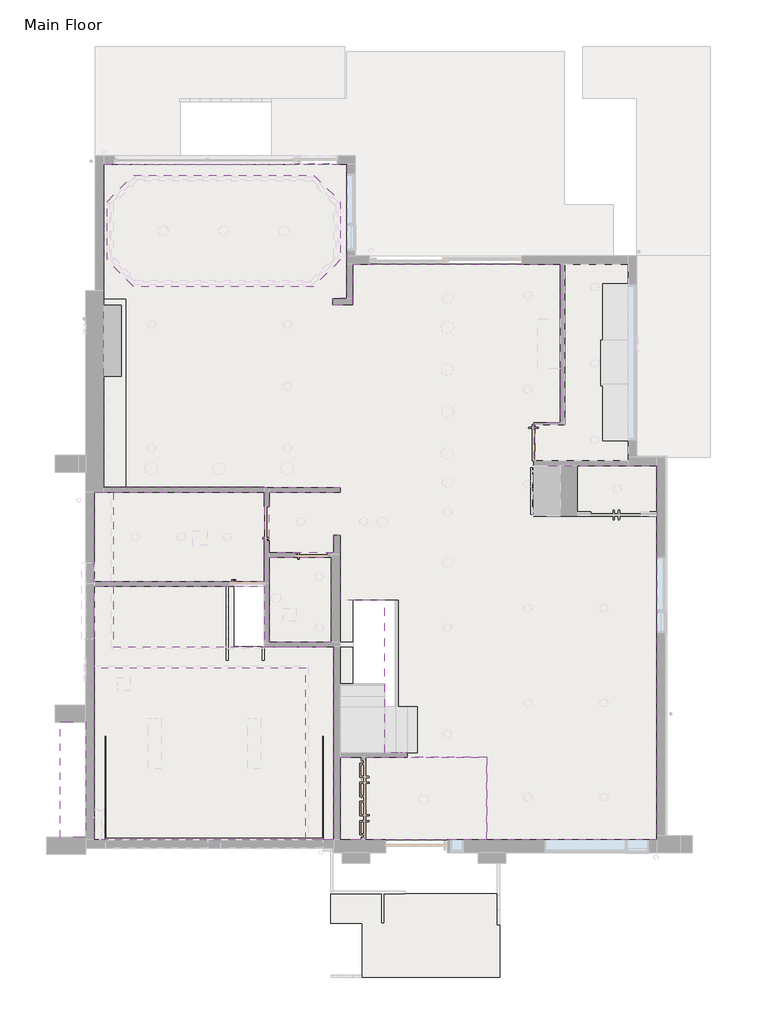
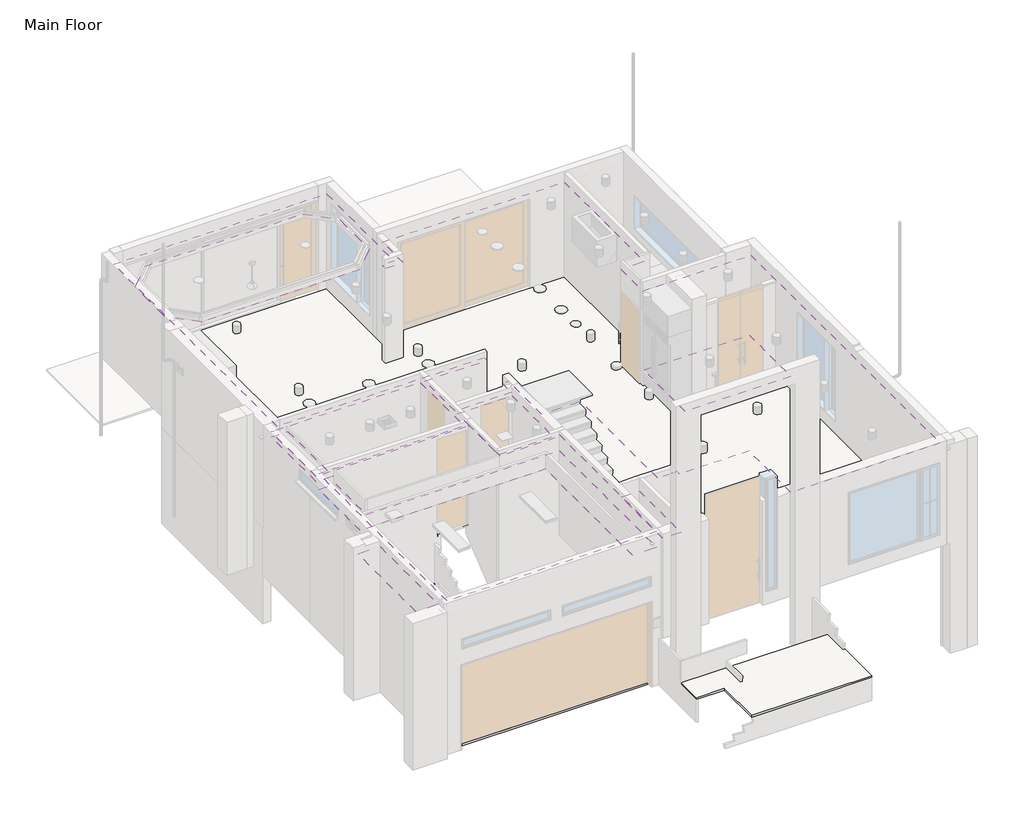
# One storey, part 3 of 4: 10 coverings, 4 slabs.
"""IFC4 building model written with IfcOpenShell, lengths in millimetres."""

from ifc_helpers import new_model, si_unit, point, frame, frame_2d, origin, place, context, project, spatial, polyline, circle_curve, trimmed, segment, composite_curve, outline, extrude, faceted_brep, element, save
from ifc_brep_helpers import plane_surface, revolved_surface, advanced_brep

model = new_model("IFC4")

# Units and contexts
model_context = context("Model", 3, world=origin())
ifc_project = project(units=[si_unit("LENGTHUNIT", "METRE", prefix="MILLI")], contexts=[model_context])

# Site, building, storey
site = spatial("IfcSite", under=ifc_project)
building = spatial("IfcBuilding", under=site)
storey = spatial("IfcBuildingStorey", under=building, Name="Main Floor", Elevation=0.0)

# Coverings
placement = place(None, origin())
element("IfcCovering", 1, ObjectType="1/2\" Ceiling", at=placement, inside=storey, context=model_context, shape_type="SweptSolid", body=[
    extrude(outline(polyline([(8017.6549773, 5688.3409405), (8017.6549773, 7824.1282405), (8144.7517773, 7824.1282405), (12086.5517773, 7824.1282405), (12086.5517773, 5688.3409405), (8017.6549773, 5688.3409405)]), holes=[composite_curve([segment(trimmed(circle_curve(frame_2d((8995.6517773, 6757.3282405)), 87.3), [point((9082.9517773, 6757.3282405))], [point((8908.3517773, 6757.3282405))], True, "CARTESIAN"), True, "CONTINUOUS"), segment(trimmed(circle_curve(frame_2d((8995.6517773, 6757.3282405)), 87.3), [point((8908.3517773, 6757.3282405))], [point((9082.9517773, 6757.3282405))], True, "CARTESIAN"), True, "CONTINUOUS")], self_intersect=False), composite_curve([segment(trimmed(circle_curve(frame_2d((10097.3767773, 6757.3282405)), 87.3), [point((10184.6767773, 6757.3282405))], [point((10010.0767773, 6757.3282405))], True, "CARTESIAN"), True, "CONTINUOUS"), segment(trimmed(circle_curve(frame_2d((10097.3767773, 6757.3282405)), 87.3), [point((10010.0767773, 6757.3282405))], [point((10184.6767773, 6757.3282405))], True, "CARTESIAN"), True, "CONTINUOUS")], self_intersect=False), composite_curve([segment(trimmed(circle_curve(frame_2d((11199.1017773, 6757.3282405)), 87.3), [point((11286.4017773, 6757.3282405))], [point((11111.8017773, 6757.3282405))], True, "CARTESIAN"), True, "CONTINUOUS"), segment(trimmed(circle_curve(frame_2d((11199.1017773, 6757.3282405)), 87.3), [point((11111.8017773, 6757.3282405))], [point((11286.4017773, 6757.3282405))], True, "CARTESIAN"), True, "CONTINUOUS")], self_intersect=False), polyline([(10703.7049773, 6888.4909405), (10386.2049773, 6888.4909405), (10386.2049773, 6570.9909405), (10703.7049773, 6570.9909405), (10703.7049773, 6888.4909405)])]), frame((0.0, 0.0, 2743.2), z_axis=(0.0, 0.0, 1.0), x_axis=(1.0, 0.0, 0.0)), (0.0, 0.0, 1.0), 12.7),
])
element("IfcCovering", 2, ObjectType="1/2\" Ceiling", at=placement, inside=storey, context=model_context, shape_type="SweptSolid", body=[
    extrude(outline(polyline([(13688.2049773, 6266.1909405), (13688.2049773, 4240.5409405), (12200.8517773, 4240.5409405), (12200.8517773, 5633.3782405), (12200.8517773, 6266.1909405), (13688.2049773, 6266.1909405)]), holes=[composite_curve([segment(trimmed(circle_curve(frame_2d((13396.3580273, 4589.7909405)), 87.3), [point((13483.6580273, 4589.7909405))], [point((13309.0580273, 4589.7909405))], True, "CARTESIAN"), True, "CONTINUOUS"), segment(trimmed(circle_curve(frame_2d((13396.3580273, 4589.7909405)), 87.3), [point((13309.0580273, 4589.7909405))], [point((13483.6580273, 4589.7909405))], True, "CARTESIAN"), True, "CONTINUOUS")], self_intersect=False), composite_curve([segment(trimmed(circle_curve(frame_2d((13396.3580273, 5808.9909405)), 87.3), [point((13483.6580273, 5808.9909405))], [point((13309.0580273, 5808.9909405))], True, "CARTESIAN"), True, "CONTINUOUS"), segment(trimmed(circle_curve(frame_2d((13396.3580273, 5808.9909405)), 87.3), [point((13309.0580273, 5808.9909405))], [point((13483.6580273, 5808.9909405))], True, "CARTESIAN"), True, "CONTINUOUS")], self_intersect=False)]), frame((0.0, 0.0, 2743.2), z_axis=(0.0, 0.0, 1.0), x_axis=(1.0, 0.0, 0.0)), (0.0, 0.0, 1.0), 12.7),
])
element("IfcCovering", 3, ObjectType="1/2\" Ceiling", at=placement, inside=storey, context=model_context, shape_type="SweptSolid", body=[
    extrude(outline(polyline([(14399.5017773, -490.2090595), (13904.0081773, -490.2090595), (13904.0081773, 1484.6409405), (14399.5017773, 1484.6409405), (14399.5017773, -490.2090595)])), frame((0.0, 0.0, 2641.6), z_axis=(0.0, 0.0, 1.0), x_axis=(1.0, 0.0, 0.0)), (0.0, 0.0, 1.0), 12.7),
])
element("IfcCovering", 4, ObjectType="1/2\" Ceiling", at=placement, inside=storey, context=model_context, shape_type="AdvancedBrep", body=[
    advanced_brep(
    [(15498.9030773, 1598.9409405, 2755.9), (15498.9030773, 1484.6409405, 2755.9), (17396.7017773, 1484.6409405, 2755.9), (17396.7017773, -490.2090595, 2755.9), (21473.3049773, -490.2090595, 2755.9), (21473.3049773, 8456.9409405, 2755.9), (18520.6517773, 8456.9409405, 2755.9), (18520.6517773, 9485.6409405, 2755.9), (19155.6623773, 9485.6409405, 2755.9), (19155.6623773, 13276.5909405, 2755.9), (14202.5549773, 13276.5909405, 2755.9), (14202.5549773, 12305.0409405, 2755.9), (13720.1485773, 12305.0409405, 2755.9), (13720.1485773, 12457.4409405, 2755.9), (14050.1549773, 12457.4409405, 2755.9), (14050.1549773, 15664.1909405, 2755.9), (8246.2549773, 15664.1909405, 2755.9), (8246.2549773, 7936.2409405, 2755.9), (13904.2985773, 7936.2409405, 2755.9), (13904.2985773, 7821.9409405, 2755.9), (12200.8517773, 7821.9409405, 2755.9), (12200.8517773, 6380.4909405, 2755.9), (13739.0049773, 6380.4909405, 2755.9), (13739.0049773, 6799.5909405, 2755.9), (13904.1049773, 6799.5909405, 2755.9), (13904.1049773, 5237.4909405, 2755.9), (14964.6517773, 5237.4909405, 2755.9), (14964.6517773, 1598.9409405, 2755.9), (15282.1517773, 1598.9409405, 2755.9), (15396.4517773, 1598.9409405, 2755.9), (20439.9517773, 7904.4909405, 2755.9), (20614.5517773, 7904.4909405, 2755.9), (18293.5549773, 532.1409405, 2755.9), (18468.1549773, 532.1409405, 2755.9), (20116.0049773, 532.1409405, 2755.9), (20290.6049773, 532.1409405, 2755.9), (20116.0049773, 2791.9807905, 2755.9), (20290.6049773, 2791.9807905, 2755.9), (20116.0049773, 5051.8206405, 2755.9), (20290.6049773, 5051.8206405, 2755.9), (18293.5549773, 5051.8206405, 2755.9), (18468.1549773, 5051.8206405, 2755.9), (18293.5549773, 2791.9807905, 2755.9), (18468.1549773, 2791.9807905, 2755.9), (16375.9517773, 2043.4409405, 2755.9), (16550.5517773, 2043.4409405, 2755.9), (16375.9517773, 4596.1409405, 2755.9), (16550.5517773, 4596.1409405, 2755.9), (16375.9517773, 7352.0409405, 2755.9), (16550.5517773, 7352.0409405, 2755.9), (18293.5549773, 10282.7003405, 2755.9), (18468.1549773, 10282.7003405, 2755.9), (18293.5549773, 8022.8604905, 2755.9), (18468.1549773, 8022.8604905, 2755.9), (18293.5549773, 12542.5401905, 2755.9), (18468.1549773, 12542.5401905, 2755.9), (9295.7017773, 8882.3909405, 2755.9), (9470.3017773, 8882.3909405, 2755.9), (9302.0517773, 11828.7909405, 2755.9), (9476.6517773, 11828.7909405, 2755.9), (12553.2517773, 11828.7909405, 2755.9), (12727.8517773, 11828.7909405, 2755.9), (12546.9017773, 8882.3909405, 2755.9), (12721.5017773, 8882.3909405, 2755.9), (12546.9017773, 10355.5909405, 2755.9), (12721.5017773, 10355.5909405, 2755.9), (12864.4017773, 7123.4409405, 2755.9), (13039.0017773, 7123.4409405, 2755.9), (14369.3517773, 7123.4409405, 2755.9), (14543.9517773, 7123.4409405, 2755.9), (15498.9030773, 1484.6409405, 2743.2), (15498.9030773, 1598.9409405, 2743.2), (14964.6517773, 1598.9409405, 2743.2), (14964.6517773, 5237.4909405, 2743.2), (13904.1049773, 5237.4909405, 2743.2), (13904.1049773, 6799.5909405, 2743.2), (13739.0049773, 6799.5909405, 2743.2), (13739.0049773, 6380.4909405, 2743.2), (12200.8517773, 6380.4909405, 2743.2), (12200.8517773, 7821.9409405, 2743.2), (13904.2985773, 7821.9409405, 2743.2), (13904.2985773, 7936.2409405, 2743.2), (8246.2549773, 7936.2409405, 2743.2), (8246.2549773, 15664.1909405, 2743.2), (14050.1549773, 15664.1909405, 2743.2), (14050.1549773, 12457.4409405, 2743.2), (13720.1485773, 12457.4409405, 2743.2), (13720.1485773, 12305.0409405, 2743.2), (14202.5549773, 12305.0409405, 2743.2), (14202.5549773, 13276.5909405, 2743.2), (19155.6623773, 13276.5909405, 2743.2), (19155.6623773, 9485.6409405, 2743.2), (18520.6517773, 9485.6409405, 2743.2), (18520.6517773, 8456.9409405, 2743.2), (21473.3049773, 8456.9409405, 2743.2), (21473.3049773, -490.2090595, 2743.2), (17396.7017773, -490.2090595, 2743.2), (17396.7017773, 1484.6409405, 2743.2), (20614.5517773, 7904.4909405, 2743.2), (20439.9517773, 7904.4909405, 2743.2), (18468.1549773, 532.1409405, 2743.2), (18293.5549773, 532.1409405, 2743.2), (20290.6049773, 532.1409405, 2743.2), (20116.0049773, 532.1409405, 2743.2), (20290.6049773, 2791.9807905, 2743.2), (20116.0049773, 2791.9807905, 2743.2), (20290.6049773, 5051.8206405, 2743.2), (20116.0049773, 5051.8206405, 2743.2), (18468.1549773, 5051.8206405, 2743.2), (18293.5549773, 5051.8206405, 2743.2), (18468.1549773, 2791.9807905, 2743.2), (18293.5549773, 2791.9807905, 2743.2), (16550.5517773, 2043.4409405, 2743.2), (16375.9517773, 2043.4409405, 2743.2), (16550.5517773, 4596.1409405, 2743.2), (16375.9517773, 4596.1409405, 2743.2), (16550.5517773, 7352.0409405, 2743.2), (16375.9517773, 7352.0409405, 2743.2), (18468.1549773, 10282.7003405, 2743.2), (18293.5549773, 10282.7003405, 2743.2), (18468.1549773, 8022.8604905, 2743.2), (18293.5549773, 8022.8604905, 2743.2), (18468.1549773, 12542.5401905, 2743.2), (18293.5549773, 12542.5401905, 2743.2), (9470.3017773, 8882.3909405, 2743.2), (9295.7017773, 8882.3909405, 2743.2), (9476.6517773, 11828.7909405, 2743.2), (9302.0517773, 11828.7909405, 2743.2), (12727.8517773, 11828.7909405, 2743.2), (12553.2517773, 11828.7909405, 2743.2), (12721.5017773, 8882.3909405, 2743.2), (12546.9017773, 8882.3909405, 2743.2), (12721.5017773, 10355.5909405, 2743.2), (12546.9017773, 10355.5909405, 2743.2), (13039.0017773, 7123.4409405, 2743.2), (12864.4017773, 7123.4409405, 2743.2), (14543.9517773, 7123.4409405, 2743.2), (14369.3517773, 7123.4409405, 2743.2)],
    [
        (0, 1),
        (1, 2),
        (2, 3),
        (3, 4),
        (4, 5),
        (5, 6),
        (6, 7),
        (7, 8),
        (8, 9),
        (9, 10),
        (10, 11),
        (11, 12),
        (12, 13),
        (13, 14),
        (14, 15),
        (15, 16),
        (16, 17),
        (17, 18),
        (18, 19),
        (19, 20),
        (20, 21),
        (21, 22),
        (22, 23),
        (23, 24),
        (24, 25),
        (25, 26),
        (26, 27),
        (27, 28),
        (28, 29),
        (29, 0),
        (30, 31, circle_curve(frame((20527.2517773, 7904.4909405, 2755.9), z_axis=(0.0, 0.0, -1.0), x_axis=(1.0, 0.0, 0.0)), 87.3)),
        (31, 30, circle_curve(frame((20527.2517773, 7904.4909405, 2755.9), z_axis=(0.0, 0.0, -1.0), x_axis=(1.0, 0.0, 0.0)), 87.3)),
        (32, 33, circle_curve(frame((18380.8549773, 532.1409405, 2755.9), z_axis=(0.0, 0.0, -1.0), x_axis=(1.0, 0.0, 0.0)), 87.3)),
        (33, 32, circle_curve(frame((18380.8549773, 532.1409405, 2755.9), z_axis=(0.0, 0.0, -1.0), x_axis=(1.0, 0.0, 0.0)), 87.3)),
        (34, 35, circle_curve(frame((20203.3049773, 532.1409405, 2755.9), z_axis=(0.0, 0.0, -1.0), x_axis=(1.0, 0.0, 0.0)), 87.3)),
        (35, 34, circle_curve(frame((20203.3049773, 532.1409405, 2755.9), z_axis=(0.0, 0.0, -1.0), x_axis=(1.0, 0.0, 0.0)), 87.3)),
        (36, 37, circle_curve(frame((20203.3049773, 2791.9807905, 2755.9), z_axis=(0.0, 0.0, -1.0), x_axis=(1.0, 0.0, 0.0)), 87.3)),
        (37, 36, circle_curve(frame((20203.3049773, 2791.9807905, 2755.9), z_axis=(0.0, 0.0, -1.0), x_axis=(1.0, 0.0, 0.0)), 87.3)),
        (38, 39, circle_curve(frame((20203.3049773, 5051.8206405, 2755.9), z_axis=(0.0, 0.0, -1.0), x_axis=(1.0, 0.0, 0.0)), 87.3)),
        (39, 38, circle_curve(frame((20203.3049773, 5051.8206405, 2755.9), z_axis=(0.0, 0.0, -1.0), x_axis=(1.0, 0.0, 0.0)), 87.3)),
        (40, 41, circle_curve(frame((18380.8549773, 5051.8206405, 2755.9), z_axis=(0.0, 0.0, -1.0), x_axis=(1.0, 0.0, 0.0)), 87.3)),
        (41, 40, circle_curve(frame((18380.8549773, 5051.8206405, 2755.9), z_axis=(0.0, 0.0, -1.0), x_axis=(1.0, 0.0, 0.0)), 87.3)),
        (42, 43, circle_curve(frame((18380.8549773, 2791.9807905, 2755.9), z_axis=(0.0, 0.0, -1.0), x_axis=(1.0, 0.0, 0.0)), 87.3)),
        (43, 42, circle_curve(frame((18380.8549773, 2791.9807905, 2755.9), z_axis=(0.0, 0.0, -1.0), x_axis=(1.0, 0.0, 0.0)), 87.3)),
        (44, 45, circle_curve(frame((16463.2517773, 2043.4409405, 2755.9), z_axis=(0.0, 0.0, -1.0), x_axis=(1.0, 0.0, 0.0)), 87.3)),
        (45, 44, circle_curve(frame((16463.2517773, 2043.4409405, 2755.9), z_axis=(0.0, 0.0, -1.0), x_axis=(1.0, 0.0, 0.0)), 87.3)),
        (46, 47, circle_curve(frame((16463.2517773, 4596.1409405, 2755.9), z_axis=(0.0, 0.0, -1.0), x_axis=(1.0, 0.0, 0.0)), 87.3)),
        (47, 46, circle_curve(frame((16463.2517773, 4596.1409405, 2755.9), z_axis=(0.0, 0.0, -1.0), x_axis=(1.0, 0.0, 0.0)), 87.3)),
        (48, 49, circle_curve(frame((16463.2517773, 7352.0409405, 2755.9), z_axis=(0.0, 0.0, -1.0), x_axis=(1.0, 0.0, 0.0)), 87.3)),
        (49, 48, circle_curve(frame((16463.2517773, 7352.0409405, 2755.9), z_axis=(0.0, 0.0, -1.0), x_axis=(1.0, 0.0, 0.0)), 87.3)),
        (50, 51, circle_curve(frame((18380.8549773, 10282.7003405, 2755.9), z_axis=(0.0, 0.0, -1.0), x_axis=(1.0, 0.0, 0.0)), 87.3)),
        (51, 50, circle_curve(frame((18380.8549773, 10282.7003405, 2755.9), z_axis=(0.0, 0.0, -1.0), x_axis=(1.0, 0.0, 0.0)), 87.3)),
        (52, 53, circle_curve(frame((18380.8549773, 8022.8604905, 2755.9), z_axis=(0.0, 0.0, -1.0), x_axis=(1.0, 0.0, 0.0)), 87.3)),
        (53, 52, circle_curve(frame((18380.8549773, 8022.8604905, 2755.9), z_axis=(0.0, 0.0, -1.0), x_axis=(1.0, 0.0, 0.0)), 87.3)),
        (54, 55, circle_curve(frame((18380.8549773, 12542.5401905, 2755.9), z_axis=(0.0, 0.0, -1.0), x_axis=(1.0, 0.0, 0.0)), 87.3)),
        (55, 54, circle_curve(frame((18380.8549773, 12542.5401905, 2755.9), z_axis=(0.0, 0.0, -1.0), x_axis=(1.0, 0.0, 0.0)), 87.3)),
        (56, 57, circle_curve(frame((9383.0017773, 8882.3909405, 2755.9), z_axis=(0.0, 0.0, -1.0), x_axis=(1.0, 0.0, 0.0)), 87.3)),
        (57, 56, circle_curve(frame((9383.0017773, 8882.3909405, 2755.9), z_axis=(0.0, 0.0, -1.0), x_axis=(1.0, 0.0, 0.0)), 87.3)),
        (58, 59, circle_curve(frame((9389.3517773, 11828.7909405, 2755.9), z_axis=(0.0, 0.0, -1.0), x_axis=(1.0, 0.0, 0.0)), 87.3)),
        (59, 58, circle_curve(frame((9389.3517773, 11828.7909405, 2755.9), z_axis=(0.0, 0.0, -1.0), x_axis=(1.0, 0.0, 0.0)), 87.3)),
        (60, 61, circle_curve(frame((12640.5517773, 11828.7909405, 2755.9), z_axis=(0.0, 0.0, -1.0), x_axis=(1.0, 0.0, 0.0)), 87.3)),
        (61, 60, circle_curve(frame((12640.5517773, 11828.7909405, 2755.9), z_axis=(0.0, 0.0, -1.0), x_axis=(1.0, 0.0, 0.0)), 87.3)),
        (62, 63, circle_curve(frame((12634.2017773, 8882.3909405, 2755.9), z_axis=(0.0, 0.0, -1.0), x_axis=(1.0, 0.0, 0.0)), 87.3)),
        (63, 62, circle_curve(frame((12634.2017773, 8882.3909405, 2755.9), z_axis=(0.0, 0.0, -1.0), x_axis=(1.0, 0.0, 0.0)), 87.3)),
        (64, 65, circle_curve(frame((12634.2017773, 10355.5909405, 2755.9), z_axis=(0.0, 0.0, -1.0), x_axis=(1.0, 0.0, 0.0)), 87.3)),
        (65, 64, circle_curve(frame((12634.2017773, 10355.5909405, 2755.9), z_axis=(0.0, 0.0, -1.0), x_axis=(1.0, 0.0, 0.0)), 87.3)),
        (66, 67, circle_curve(frame((12951.7017773, 7123.4409405, 2755.9), z_axis=(0.0, 0.0, -1.0), x_axis=(1.0, 0.0, 0.0)), 87.3)),
        (67, 66, circle_curve(frame((12951.7017773, 7123.4409405, 2755.9), z_axis=(0.0, 0.0, -1.0), x_axis=(1.0, 0.0, 0.0)), 87.3)),
        (68, 69, circle_curve(frame((14456.6517773, 7123.4409405, 2755.9), z_axis=(0.0, 0.0, -1.0), x_axis=(1.0, 0.0, 0.0)), 87.3)),
        (69, 68, circle_curve(frame((14456.6517773, 7123.4409405, 2755.9), z_axis=(0.0, 0.0, -1.0), x_axis=(1.0, 0.0, 0.0)), 87.3)),
        (70, 71),
        (71, 72),
        (72, 73),
        (73, 74),
        (74, 75),
        (75, 76),
        (76, 77),
        (77, 78),
        (78, 79),
        (79, 80),
        (80, 81),
        (81, 82),
        (82, 83),
        (83, 84),
        (84, 85),
        (85, 86),
        (86, 87),
        (87, 88),
        (88, 89),
        (89, 90),
        (90, 91),
        (91, 92),
        (92, 93),
        (93, 94),
        (94, 95),
        (95, 96),
        (96, 97),
        (97, 70),
        (98, 99, circle_curve(frame((20527.2517773, 7904.4909405, 2743.2), z_axis=(0.0, 0.0, 1.0), x_axis=(1.0, 0.0, 0.0)), 87.3)),
        (99, 98, circle_curve(frame((20527.2517773, 7904.4909405, 2743.2), z_axis=(0.0, 0.0, 1.0), x_axis=(1.0, 0.0, 0.0)), 87.3)),
        (100, 101, circle_curve(frame((18380.8549773, 532.1409405, 2743.2), z_axis=(0.0, 0.0, 1.0), x_axis=(1.0, 0.0, 0.0)), 87.3)),
        (101, 100, circle_curve(frame((18380.8549773, 532.1409405, 2743.2), z_axis=(0.0, 0.0, 1.0), x_axis=(1.0, 0.0, 0.0)), 87.3)),
        (102, 103, circle_curve(frame((20203.3049773, 532.1409405, 2743.2), z_axis=(0.0, 0.0, 1.0), x_axis=(1.0, 0.0, 0.0)), 87.3)),
        (103, 102, circle_curve(frame((20203.3049773, 532.1409405, 2743.2), z_axis=(0.0, 0.0, 1.0), x_axis=(1.0, 0.0, 0.0)), 87.3)),
        (104, 105, circle_curve(frame((20203.3049773, 2791.9807905, 2743.2), z_axis=(0.0, 0.0, 1.0), x_axis=(1.0, 0.0, 0.0)), 87.3)),
        (105, 104, circle_curve(frame((20203.3049773, 2791.9807905, 2743.2), z_axis=(0.0, 0.0, 1.0), x_axis=(1.0, 0.0, 0.0)), 87.3)),
        (106, 107, circle_curve(frame((20203.3049773, 5051.8206405, 2743.2), z_axis=(0.0, 0.0, 1.0), x_axis=(1.0, 0.0, 0.0)), 87.3)),
        (107, 106, circle_curve(frame((20203.3049773, 5051.8206405, 2743.2), z_axis=(0.0, 0.0, 1.0), x_axis=(1.0, 0.0, 0.0)), 87.3)),
        (108, 109, circle_curve(frame((18380.8549773, 5051.8206405, 2743.2), z_axis=(0.0, 0.0, 1.0), x_axis=(1.0, 0.0, 0.0)), 87.3)),
        (109, 108, circle_curve(frame((18380.8549773, 5051.8206405, 2743.2), z_axis=(0.0, 0.0, 1.0), x_axis=(1.0, 0.0, 0.0)), 87.3)),
        (110, 111, circle_curve(frame((18380.8549773, 2791.9807905, 2743.2), z_axis=(0.0, 0.0, 1.0), x_axis=(1.0, 0.0, 0.0)), 87.3)),
        (111, 110, circle_curve(frame((18380.8549773, 2791.9807905, 2743.2), z_axis=(0.0, 0.0, 1.0), x_axis=(1.0, 0.0, 0.0)), 87.3)),
        (112, 113, circle_curve(frame((16463.2517773, 2043.4409405, 2743.2), z_axis=(0.0, 0.0, 1.0), x_axis=(1.0, 0.0, 0.0)), 87.3)),
        (113, 112, circle_curve(frame((16463.2517773, 2043.4409405, 2743.2), z_axis=(0.0, 0.0, 1.0), x_axis=(1.0, 0.0, 0.0)), 87.3)),
        (114, 115, circle_curve(frame((16463.2517773, 4596.1409405, 2743.2), z_axis=(0.0, 0.0, 1.0), x_axis=(1.0, 0.0, 0.0)), 87.3)),
        (115, 114, circle_curve(frame((16463.2517773, 4596.1409405, 2743.2), z_axis=(0.0, 0.0, 1.0), x_axis=(1.0, 0.0, 0.0)), 87.3)),
        (116, 117, circle_curve(frame((16463.2517773, 7352.0409405, 2743.2), z_axis=(0.0, 0.0, 1.0), x_axis=(1.0, 0.0, 0.0)), 87.3)),
        (117, 116, circle_curve(frame((16463.2517773, 7352.0409405, 2743.2), z_axis=(0.0, 0.0, 1.0), x_axis=(1.0, 0.0, 0.0)), 87.3)),
        (118, 119, circle_curve(frame((18380.8549773, 10282.7003405, 2743.2), z_axis=(0.0, 0.0, 1.0), x_axis=(1.0, 0.0, 0.0)), 87.3)),
        (119, 118, circle_curve(frame((18380.8549773, 10282.7003405, 2743.2), z_axis=(0.0, 0.0, 1.0), x_axis=(1.0, 0.0, 0.0)), 87.3)),
        (120, 121, circle_curve(frame((18380.8549773, 8022.8604905, 2743.2), z_axis=(0.0, 0.0, 1.0), x_axis=(1.0, 0.0, 0.0)), 87.3)),
        (121, 120, circle_curve(frame((18380.8549773, 8022.8604905, 2743.2), z_axis=(0.0, 0.0, 1.0), x_axis=(1.0, 0.0, 0.0)), 87.3)),
        (122, 123, circle_curve(frame((18380.8549773, 12542.5401905, 2743.2), z_axis=(0.0, 0.0, 1.0), x_axis=(1.0, 0.0, 0.0)), 87.3)),
        (123, 122, circle_curve(frame((18380.8549773, 12542.5401905, 2743.2), z_axis=(0.0, 0.0, 1.0), x_axis=(1.0, 0.0, 0.0)), 87.3)),
        (124, 125, circle_curve(frame((9383.0017773, 8882.3909405, 2743.2), z_axis=(0.0, 0.0, 1.0), x_axis=(1.0, 0.0, 0.0)), 87.3)),
        (125, 124, circle_curve(frame((9383.0017773, 8882.3909405, 2743.2), z_axis=(0.0, 0.0, 1.0), x_axis=(1.0, 0.0, 0.0)), 87.3)),
        (126, 127, circle_curve(frame((9389.3517773, 11828.7909405, 2743.2), z_axis=(0.0, 0.0, 1.0), x_axis=(1.0, 0.0, 0.0)), 87.3)),
        (127, 126, circle_curve(frame((9389.3517773, 11828.7909405, 2743.2), z_axis=(0.0, 0.0, 1.0), x_axis=(1.0, 0.0, 0.0)), 87.3)),
        (128, 129, circle_curve(frame((12640.5517773, 11828.7909405, 2743.2), z_axis=(0.0, 0.0, 1.0), x_axis=(1.0, 0.0, 0.0)), 87.3)),
        (129, 128, circle_curve(frame((12640.5517773, 11828.7909405, 2743.2), z_axis=(0.0, 0.0, 1.0), x_axis=(1.0, 0.0, 0.0)), 87.3)),
        (130, 131, circle_curve(frame((12634.2017773, 8882.3909405, 2743.2), z_axis=(0.0, 0.0, 1.0), x_axis=(1.0, 0.0, 0.0)), 87.3)),
        (131, 130, circle_curve(frame((12634.2017773, 8882.3909405, 2743.2), z_axis=(0.0, 0.0, 1.0), x_axis=(1.0, 0.0, 0.0)), 87.3)),
        (132, 133, circle_curve(frame((12634.2017773, 10355.5909405, 2743.2), z_axis=(0.0, 0.0, 1.0), x_axis=(1.0, 0.0, 0.0)), 87.3)),
        (133, 132, circle_curve(frame((12634.2017773, 10355.5909405, 2743.2), z_axis=(0.0, 0.0, 1.0), x_axis=(1.0, 0.0, 0.0)), 87.3)),
        (134, 135, circle_curve(frame((12951.7017773, 7123.4409405, 2743.2), z_axis=(0.0, 0.0, 1.0), x_axis=(1.0, 0.0, 0.0)), 87.3)),
        (135, 134, circle_curve(frame((12951.7017773, 7123.4409405, 2743.2), z_axis=(0.0, 0.0, 1.0), x_axis=(1.0, 0.0, 0.0)), 87.3)),
        (136, 137, circle_curve(frame((14456.6517773, 7123.4409405, 2743.2), z_axis=(0.0, 0.0, 1.0), x_axis=(1.0, 0.0, 0.0)), 87.3)),
        (137, 136, circle_curve(frame((14456.6517773, 7123.4409405, 2743.2), z_axis=(0.0, 0.0, 1.0), x_axis=(1.0, 0.0, 0.0)), 87.3)),
        (0, 71),
        (70, 1),
        (97, 2),
        (96, 3),
        (95, 4),
        (94, 5),
        (93, 6),
        (92, 7),
        (91, 8),
        (90, 9),
        (89, 10),
        (88, 11),
        (87, 12),
        (86, 13),
        (85, 14),
        (84, 15),
        (83, 16),
        (82, 17),
        (81, 18),
        (80, 19),
        (79, 20),
        (78, 21),
        (77, 22),
        (76, 23),
        (75, 24),
        (74, 25),
        (27, 72),
        (73, 26),
        (98, 31),
        (30, 99),
        (100, 33),
        (32, 101),
        (102, 35),
        (34, 103),
        (104, 37),
        (36, 105),
        (106, 39),
        (38, 107),
        (108, 41),
        (40, 109),
        (110, 43),
        (42, 111),
        (112, 45),
        (44, 113),
        (114, 47),
        (46, 115),
        (116, 49),
        (48, 117),
        (118, 51),
        (50, 119),
        (120, 53),
        (52, 121),
        (122, 55),
        (54, 123),
        (124, 57),
        (56, 125),
        (126, 59),
        (58, 127),
        (128, 61),
        (60, 129),
        (130, 63),
        (62, 131),
        (132, 65),
        (64, 133),
        (134, 67),
        (66, 135),
        (136, 69),
        (68, 137),
    ],
    [
        plane_surface(frame((15498.9030773, 1598.9409405, 2755.9), z_axis=(0.0, 0.0, 1.0), x_axis=(0.0, -1.0, 0.0))),
        plane_surface(frame((15498.9030773, 1598.9409405, 2743.2), z_axis=(0.0, 0.0, -1.0), x_axis=(0.0, 1.0, 0.0))),
        plane_surface(frame((15498.9030773, 1598.9409405, 2755.9), z_axis=(-1.0, 0.0, 0.0), x_axis=(0.0, 0.0, -1.0))),
        plane_surface(frame((15498.9030773, 1484.6409405, 2755.9), z_axis=(0.0, -1.0, 0.0), x_axis=(0.0, 0.0, -1.0))),
        plane_surface(frame((17396.7017773, 1484.6409405, 2755.9), z_axis=(-1.0, 0.0, 0.0), x_axis=(0.0, 0.0, -1.0))),
        plane_surface(frame((17396.7017773, -490.2090595, 2755.9), z_axis=(0.0, -1.0, 0.0), x_axis=(0.0, 0.0, -1.0))),
        plane_surface(frame((21473.3049773, -490.2090595, 2755.9), z_axis=(1.0, 0.0, 0.0), x_axis=(0.0, 0.0, -1.0))),
        plane_surface(frame((21473.3049773, 8456.9409405, 2755.9), z_axis=(0.0, 1.0, 0.0), x_axis=(0.0, 0.0, -1.0))),
        plane_surface(frame((18520.6517773, 8456.9409405, 2755.9), z_axis=(1.0, 0.0, 0.0), x_axis=(0.0, 0.0, -1.0))),
        plane_surface(frame((18520.6517773, 9485.6409405, 2755.9), z_axis=(0.0, -1.0, 0.0), x_axis=(0.0, 0.0, -1.0))),
        plane_surface(frame((19155.6623773, 9485.6409405, 2755.9), z_axis=(1.0, 0.0, 0.0), x_axis=(0.0, 0.0, -1.0))),
        plane_surface(frame((19155.6623773, 13276.5909405, 2755.9), z_axis=(0.0, 1.0, 0.0), x_axis=(0.0, 0.0, -1.0))),
        plane_surface(frame((14202.5549773, 13276.5909405, 2755.9), z_axis=(-1.0, 0.0, 0.0), x_axis=(0.0, 0.0, -1.0))),
        plane_surface(frame((14202.5549773, 12305.0409405, 2755.9), z_axis=(0.0, 1.0, 0.0), x_axis=(0.0, 0.0, -1.0))),
        plane_surface(frame((13720.1485773, 12305.0409405, 2755.9), z_axis=(1.0, 0.0, 0.0), x_axis=(0.0, 0.0, -1.0))),
        plane_surface(frame((13720.1485773, 12457.4409405, 2755.9), z_axis=(0.0, -1.0, 0.0), x_axis=(0.0, 0.0, -1.0))),
        plane_surface(frame((14050.1549773, 12457.4409405, 2755.9), z_axis=(1.0, 0.0, 0.0), x_axis=(0.0, 0.0, -1.0))),
        plane_surface(frame((14050.1549773, 15664.1909405, 2755.9), z_axis=(0.0, 1.0, 0.0), x_axis=(0.0, 0.0, -1.0))),
        plane_surface(frame((8246.2549773, 15664.1909405, 2755.9), z_axis=(-1.0, 0.0, 0.0), x_axis=(0.0, 0.0, -1.0))),
        plane_surface(frame((8246.2549773, 7936.2409405, 2755.9), z_axis=(0.0, -1.0, 0.0), x_axis=(0.0, 0.0, -1.0))),
        plane_surface(frame((13904.2985773, 7936.2409405, 2755.9), z_axis=(-1.0, 0.0, 0.0), x_axis=(0.0, 0.0, -1.0))),
        plane_surface(frame((13904.2985773, 7821.9409405, 2755.9), z_axis=(0.0, 1.0, 0.0), x_axis=(0.0, 0.0, -1.0))),
        plane_surface(frame((12200.8517773, 7821.9409405, 2755.9), z_axis=(-1.0, 0.0, 0.0), x_axis=(0.0, 0.0, -1.0))),
        plane_surface(frame((12200.8517773, 6380.4909405, 2755.9), z_axis=(0.0, -1.0, 0.0), x_axis=(0.0, 0.0, -1.0))),
        plane_surface(frame((13739.0049773, 6380.4909405, 2755.9), z_axis=(1.0, 0.0, 0.0), x_axis=(0.0, 0.0, -1.0))),
        plane_surface(frame((13739.0049773, 6799.5909405, 2755.9), z_axis=(0.0, -1.0, 0.0), x_axis=(0.0, 0.0, -1.0))),
        plane_surface(frame((13904.1049773, 6799.5909405, 2755.9), z_axis=(-1.0, 0.0, 0.0), x_axis=(0.0, 0.0, -1.0))),
        plane_surface(frame((14964.6517773, 1598.9409405, 2755.9), z_axis=(0.0, -1.0, 0.0), x_axis=(0.0, 0.0, -1.0))),
        plane_surface(frame((13904.1049773, 5237.4909405, 2755.9), z_axis=(0.0, -1.0, 0.0), x_axis=(0.0, 0.0, -1.0))),
        plane_surface(frame((14964.6517773, 5237.4909405, 2755.9), z_axis=(-1.0, 0.0, 0.0), x_axis=(0.0, 0.0, -1.0))),
        revolved_surface(polyline([(20614.5517773, 7904.4909405, 2755.9), (20614.5517773, 7904.4909405, 2743.2)]), (20527.2517773, 7904.4909405, 2692.4), (0.0, 0.0, 1.0)),
        revolved_surface(polyline([(18468.1549773, 532.1409405, 2755.9), (18468.1549773, 532.1409405, 2743.2)]), (18380.8549773, 532.1409405, 2692.4), (0.0, 0.0, 1.0)),
        revolved_surface(polyline([(20290.604977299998, 532.1409405, 2755.9), (20290.604977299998, 532.1409405, 2743.2)]), (20203.3049773, 532.1409405, 2692.4), (0.0, 0.0, 1.0)),
        revolved_surface(polyline([(20290.604977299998, 2791.9807905, 2755.9), (20290.604977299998, 2791.9807905, 2743.2)]), (20203.3049773, 2791.9807905, 2692.4), (0.0, 0.0, 1.0)),
        revolved_surface(polyline([(20290.604977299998, 5051.8206405, 2755.9), (20290.604977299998, 5051.8206405, 2743.2)]), (20203.3049773, 5051.8206405, 2692.4), (0.0, 0.0, 1.0)),
        revolved_surface(polyline([(18468.1549773, 5051.8206405, 2755.9), (18468.1549773, 5051.8206405, 2743.2)]), (18380.8549773, 5051.8206405, 2692.4), (0.0, 0.0, 1.0)),
        revolved_surface(polyline([(18468.1549773, 2791.9807905, 2755.9), (18468.1549773, 2791.9807905, 2743.2)]), (18380.8549773, 2791.9807905, 2692.4), (0.0, 0.0, 1.0)),
        revolved_surface(polyline([(16550.5517773, 2043.4409405, 2755.9), (16550.5517773, 2043.4409405, 2743.2)]), (16463.2517773, 2043.4409405, 2692.4), (0.0, 0.0, 1.0)),
        revolved_surface(polyline([(16550.5517773, 4596.1409405, 2755.9), (16550.5517773, 4596.1409405, 2743.2)]), (16463.2517773, 4596.1409405, 2692.4), (0.0, 0.0, 1.0)),
        revolved_surface(polyline([(16550.5517773, 7352.0409405, 2755.9), (16550.5517773, 7352.0409405, 2743.2)]), (16463.2517773, 7352.0409405, 2692.4), (0.0, 0.0, 1.0)),
        revolved_surface(polyline([(18468.1549773, 10282.7003405, 2755.9), (18468.1549773, 10282.7003405, 2743.2)]), (18380.8549773, 10282.7003405, 2692.4), (0.0, 0.0, 1.0)),
        revolved_surface(polyline([(18468.1549773, 8022.8604905, 2755.9), (18468.1549773, 8022.8604905, 2743.2)]), (18380.8549773, 8022.8604905, 2692.4), (0.0, 0.0, 1.0)),
        revolved_surface(polyline([(18468.1549773, 12542.5401905, 2755.9), (18468.1549773, 12542.5401905, 2743.2)]), (18380.8549773, 12542.5401905, 2692.4), (0.0, 0.0, 1.0)),
        revolved_surface(polyline([(9470.3017773, 8882.3909405, 2755.9), (9470.3017773, 8882.3909405, 2743.2)]), (9383.0017773, 8882.3909405, 2692.4), (0.0, 0.0, 1.0)),
        revolved_surface(polyline([(9476.6517773, 11828.7909405, 2755.9), (9476.6517773, 11828.7909405, 2743.2)]), (9389.3517773, 11828.7909405, 2692.4), (0.0, 0.0, 1.0)),
        revolved_surface(polyline([(12727.851777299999, 11828.7909405, 2755.9), (12727.851777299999, 11828.7909405, 2743.2)]), (12640.5517773, 11828.7909405, 2692.4), (0.0, 0.0, 1.0)),
        revolved_surface(polyline([(12721.5017773, 8882.3909405, 2755.9), (12721.5017773, 8882.3909405, 2743.2)]), (12634.2017773, 8882.3909405, 2692.4), (0.0, 0.0, 1.0)),
        revolved_surface(polyline([(12721.5017773, 10355.5909405, 2755.9), (12721.5017773, 10355.5909405, 2743.2)]), (12634.2017773, 10355.5909405, 2692.4), (0.0, 0.0, 1.0)),
        revolved_surface(polyline([(13039.0017773, 7123.4409405, 2755.9), (13039.0017773, 7123.4409405, 2743.2)]), (12951.7017773, 7123.4409405, 2692.4), (0.0, 0.0, 1.0)),
        revolved_surface(polyline([(14543.951777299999, 7123.4409405, 2755.9), (14543.951777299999, 7123.4409405, 2743.2)]), (14456.6517773, 7123.4409405, 2692.4), (0.0, 0.0, 1.0)),
    ],
    [
        (0, [[1, 2, 3, 4, 5, 6, 7, 8, 9, 10, 11, 12, 13, 14, 15, 16, 17, 18, 19, 20, 21, 22, 23, 24, 25, 26, 27, 28, 29, 30], [31, 32], [33, 34], [35, 36], [37, 38], [39, 40], [41, 42], [43, 44], [45, 46], [47, 48], [49, 50], [51, 52], [53, 54], [55, 56], [57, 58], [59, 60], [61, 62], [63, 64], [65, 66], [67, 68], [69, 70]]),
        (1, [[71, 72, 73, 74, 75, 76, 77, 78, 79, 80, 81, 82, 83, 84, 85, 86, 87, 88, 89, 90, 91, 92, 93, 94, 95, 96, 97, 98], [99, 100], [101, 102], [103, 104], [105, 106], [107, 108], [109, 110], [111, 112], [113, 114], [115, 116], [117, 118], [119, 120], [121, 122], [123, 124], [125, 126], [127, 128], [129, 130], [131, 132], [133, 134], [135, 136], [137, 138]]),
        (2, [[-1, 139, -71, 140]]),
        (3, [[-2, -140, -98, 141]]),
        (4, [[-3, -141, -97, 142]]),
        (5, [[-4, -142, -96, 143]]),
        (6, [[-5, -143, -95, 144]]),
        (7, [[-6, -144, -94, 145]]),
        (8, [[-7, -145, -93, 146]]),
        (9, [[-8, -146, -92, 147]]),
        (10, [[-9, -147, -91, 148]]),
        (11, [[-10, -148, -90, 149]]),
        (12, [[-11, -149, -89, 150]]),
        (13, [[-12, -150, -88, 151]]),
        (14, [[-13, -151, -87, 152]]),
        (15, [[-14, -152, -86, 153]]),
        (16, [[-15, -153, -85, 154]]),
        (17, [[-16, -154, -84, 155]]),
        (18, [[-17, -155, -83, 156]]),
        (19, [[-18, -156, -82, 157]]),
        (20, [[-19, -157, -81, 158]]),
        (21, [[-20, -158, -80, 159]]),
        (22, [[-21, -159, -79, 160]]),
        (23, [[-22, -160, -78, 161]]),
        (24, [[-23, -161, -77, 162]]),
        (25, [[-24, -162, -76, 163]]),
        (26, [[-25, -163, -75, 164]]),
        (27, [[-30, -29, -28, 165, -72, -139]]),
        (28, [[-26, -164, -74, 166]]),
        (29, [[-27, -166, -73, -165]]),
        (30, [[167, -31, 168, -99]]),
        (30, [[-167, -100, -168, -32]]),
        (31, [[169, -33, 170, -101]]),
        (31, [[-169, -102, -170, -34]]),
        (32, [[171, -35, 172, -103]]),
        (32, [[-171, -104, -172, -36]]),
        (33, [[173, -37, 174, -105]]),
        (33, [[-173, -106, -174, -38]]),
        (34, [[175, -39, 176, -107]]),
        (34, [[-175, -108, -176, -40]]),
        (35, [[177, -41, 178, -109]]),
        (35, [[-177, -110, -178, -42]]),
        (36, [[179, -43, 180, -111]]),
        (36, [[-179, -112, -180, -44]]),
        (37, [[181, -45, 182, -113]]),
        (37, [[-181, -114, -182, -46]]),
        (38, [[183, -47, 184, -115]]),
        (38, [[-183, -116, -184, -48]]),
        (39, [[185, -49, 186, -117]]),
        (39, [[-185, -118, -186, -50]]),
        (40, [[187, -51, 188, -119]]),
        (40, [[-187, -120, -188, -52]]),
        (41, [[189, -53, 190, -121]]),
        (41, [[-189, -122, -190, -54]]),
        (42, [[191, -55, 192, -123]]),
        (42, [[-191, -124, -192, -56]]),
        (43, [[193, -57, 194, -125]]),
        (43, [[-193, -126, -194, -58]]),
        (44, [[195, -59, 196, -127]]),
        (44, [[-195, -128, -196, -60]]),
        (45, [[197, -61, 198, -129]]),
        (45, [[-197, -130, -198, -62]]),
        (46, [[199, -63, 200, -131]]),
        (46, [[-199, -132, -200, -64]]),
        (47, [[201, -65, 202, -133]]),
        (47, [[-201, -134, -202, -66]]),
        (48, [[203, -67, 204, -135]]),
        (48, [[-203, -136, -204, -68]]),
        (49, [[205, -69, 206, -137]]),
        (49, [[-205, -138, -206, -70]]),
    ],
),
])
element("IfcCovering", 5, ObjectType="1/2\" Ceiling", at=placement, inside=storey, context=model_context, shape_type="SweptSolid", body=[
    extrude(outline(polyline([(12086.5517773, 4126.2409405), (13738.9081773, 4126.2409405), (13738.9081773, -490.2090595), (8017.6549773, -490.2090595), (8017.6549773, 5574.0409405), (12086.5517773, 5574.0409405), (12086.5517773, 4126.2409405)])), frame((0.0, 0.0, 2895.6), z_axis=(0.0, 0.0, 1.0), x_axis=(1.0, 0.0, 0.0)), (0.0, 0.0, 1.0), 12.7),
])
element("IfcCovering", 6, ObjectType="1/2\" Ceiling", at=placement, inside=storey, context=model_context, shape_type="Brep", body=[
    faceted_brep([(8474.9517773, 5688.3409405, 2603.5), (8474.9517773, 7824.1282405, 2603.5), (8424.1517773, 7824.1282405, 2603.5), (8017.6549773, 7824.1282405, 2603.5), (8017.6549773, 5688.3409405, 2603.5), (8424.1517773, 5688.3409405, 2603.5), (8474.9517773, 5688.3409405, 2590.8), (8017.6549773, 5688.3409405, 2590.8), (8017.6549773, 7824.1282405, 2590.8), (8474.9517773, 7824.1282405, 2590.8)], [[[0, 1, 2, 3, 4, 5]], [[6, 7, 8, 9]], [[1, 0, 6, 9]], [[3, 2, 1, 9, 8]], [[4, 3, 8, 7]], [[0, 5, 4, 7, 6]]]),
])
element("IfcCovering", 7, ObjectType="1/2\" Ceiling", at=placement, inside=storey, context=model_context, shape_type="SweptSolid", body=[
    extrude(outline(polyline([(8017.6549773, 3618.2409405), (8017.6549773, 5574.0409405), (8474.9517773, 5574.0409405), (8474.9517773, 4126.2409405), (13738.9081773, 4126.2409405), (13738.9081773, -490.2090595), (13078.6049773, -490.2090595), (13078.6049773, 3618.2409405), (8017.6549773, 3618.2409405)])), frame((0.0, 0.0, 2438.4), z_axis=(0.0, 0.0, 1.0), x_axis=(1.0, 0.0, 0.0)), (0.0, 0.0, 1.0), 12.7),
])
element("IfcCovering", 8, ObjectType="1/2\" Ceiling", at=placement, inside=storey, context=model_context, shape_type="SweptSolid", body=[
    extrude(outline(polyline([(13262.8517773, 15410.1909405), (13897.8517773, 14775.1909405), (13897.8517773, 13378.1909405), (13262.8517773, 12743.1909405), (8957.5517773, 12743.1909405), (8322.5517773, 13378.1909405), (8322.5517773, 14775.1909405), (8957.5517773, 15410.1909405), (13262.8517773, 15410.1909405)]), holes=[polyline([(13199.7256304, 15257.7909405), (9020.6779242, 15257.7909405), (8474.9517773, 14712.0647936), (8474.9517773, 13441.3170874), (9020.6779242, 12895.5909405), (13199.7256304, 12895.5909405), (13745.4517773, 13441.3170874), (13745.4517773, 14712.0647936), (13199.7256304, 15257.7909405)])]), frame((0.0, 0.0, 2590.8), z_axis=(0.0, 0.0, 1.0), x_axis=(1.0, 0.0, 0.0)), (0.0, 0.0, 1.0), 12.7),
])
element("IfcCovering", 9, ObjectType="1/2\" Ceiling", at=placement, inside=storey, context=model_context, shape_type="SweptSolid", body=[
    extrude(outline(polyline([(17396.7017773, -490.2090595), (14513.8017773, -490.2090595), (14513.8017773, 1040.1409405), (14513.8017773, 1484.6409405), (17396.7017773, 1484.6409405), (17396.7017773, -490.2090595)])), frame((0.0, 0.0, 6096.0), z_axis=(0.0, 0.0, 1.0), x_axis=(1.0, 0.0, 0.0)), (0.0, 0.0, 1.0), 12.7),
])
element("IfcCovering", 10, ObjectType="1/2\" Ceiling", at=placement, inside=storey, context=model_context, shape_type="Brep", body=[
    faceted_brep([(21676.5049773, 3656.3409405, 2844.8), (21676.5049773, -388.6090595, 2844.8), (22057.6017773, -388.6090595, 2844.8), (22057.6017773, 3656.3409405, 2844.8), (21676.5049773, 3656.3409405, 2832.1), (22057.6017773, 3656.3409405, 2832.1), (22057.6017773, -388.6090595, 2832.1), (21676.5049773, -388.6090595, 2832.1)], [[[0, 1, 2, 3]], [[4, 5, 6, 7]], [[1, 0, 4, 7]], [[2, 1, 7, 6]], [[3, 2, 6, 5]], [[0, 3, 5, 4]]]),
    faceted_brep([(7814.4549773, -432.572909, 2844.8), (7814.4549773, 2329.1909405, 2844.8), (7205.0871773, 2329.1909405, 2844.8), (7205.0871773, -432.572909, 2844.8), (7814.4549773, -432.572909, 2832.1), (7205.0871773, -432.572909, 2832.1), (7205.0871773, 2329.1909405, 2832.1), (7814.4549773, 2329.1909405, 2832.1)], [[[0, 1, 2, 3]], [[4, 5, 6, 7]], [[1, 0, 4, 7]], [[2, 1, 7, 6]], [[3, 2, 6, 5]], [[0, 3, 5, 4]]]),
    faceted_brep([(7814.4549773, 2735.5909405, 2844.8), (7814.4549773, 8306.7282405, 2844.8), (7528.7049773, 8306.7282405, 2844.8), (7528.7049773, 2735.5909405, 2844.8), (7814.4549773, 2735.5909405, 2832.1), (7528.7049773, 2735.5909405, 2832.1), (7528.7049773, 8306.7282405, 2832.1), (7814.4549773, 8306.7282405, 2832.1)], [[[0, 1, 2, 3]], [[4, 5, 6, 7]], [[1, 0, 4, 7]], [[2, 1, 7, 6]], [[3, 2, 6, 5]], [[0, 3, 5, 4]]]),
    faceted_brep([(7814.4549773, 8713.1282405, 2844.8), (7814.4549773, 12400.2909405, 2844.8), (7814.4549773, 12501.8909405, 2844.8), (7789.0549773, 12501.8909405, 2844.8), (7528.7049773, 12501.8909405, 2844.8), (7528.7049773, 8713.1282405, 2844.8), (7814.4549773, 8713.1282405, 2832.1), (7528.7049773, 8713.1282405, 2832.1), (7528.7049773, 12501.8909405, 2832.1), (7789.0549773, 12501.8909405, 2832.1), (7814.4549773, 12501.8909405, 2832.1)], [[[0, 1, 2, 3, 4, 5]], [[6, 7, 8, 9, 10]], [[2, 1, 0, 6, 10]], [[4, 3, 2, 10, 9, 8]], [[5, 4, 8, 7]], [[0, 5, 7, 6]]]),
])

# Slabs
element("IfcSlab", 11, ObjectType="Ledge - 2\"", at=placement, inside=storey, context=model_context, shape_type="Brep", body=[
    faceted_brep([(14050.1549773, 13276.5909405, -50.8), (17072.8517773, 13276.5909405, -50.8), (20781.1549773, 13276.5909405, -50.8), (20781.1549773, 8660.1409405, -50.8), (20781.1549773, 8456.9409405, -50.8), (21422.6017773, 8456.9409405, -50.8), (21473.3049773, 8456.9409405, -50.8), (21473.3049773, -388.6090595, -50.8), (21473.3049773, -439.4090595, -50.8), (21473.3049773, -490.2090595, -50.8), (13904.0081773, -490.2090595, -50.8), (13904.0081773, -439.4090595, -50.8), (13904.0081773, 4126.2409405, -50.8), (13904.0081773, 4240.5409405, -50.8), (13738.9081773, 4240.5409405, -50.8), (12200.8517773, 4240.5409405, -50.8), (12200.8517773, 5688.3409405, -50.8), (12075.3636404, 5688.3409405, -50.8), (12075.3636404, 5574.0409405, -50.8), (11262.6017773, 5574.0409405, -50.8), (11262.6017773, 5688.3409405, -50.8), (8297.1517773, 5688.3409405, -50.8), (8043.1517773, 5688.3409405, -50.8), (8017.6549773, 5688.3409405, -50.8), (8017.6549773, 7824.1282405, -50.8), (8043.1517773, 7824.1282405, -50.8), (8246.2549773, 7824.1282405, -50.8), (8246.2549773, 15144.3463405, -50.8), (8246.2549773, 15613.3909405, -50.8), (8246.2549773, 15664.1909405, -50.8), (14027.2174773, 15664.1909405, -50.8), (14050.1549773, 15664.1909405, -50.8), (14050.1549773, 15144.3463405, -50.8), (14050.1549773, 13479.7909405, -50.8), (14209.0985773, 1598.9409405, -50.8), (15739.9101773, 1598.9409405, -50.8), (15739.9101773, 2691.1409405, -50.8), (15222.9148773, 2691.1409405, -50.8), (15222.9148773, 5240.2154405, -50.8), (14209.0985773, 5240.2154405, -50.8), (14050.1549773, 13276.5909405, 0.0), (14050.1549773, 13479.7909405, 0.0), (14050.1549773, 15144.3463405, 0.0), (14050.1549773, 15664.1909405, 0.0), (14027.2174773, 15664.1909405, 0.0), (8246.2549773, 15664.1909405, 0.0), (8246.2549773, 15613.3909405, 0.0), (8246.2549773, 15144.3463405, 0.0), (8246.2549773, 7824.1282405, 0.0), (8043.1517773, 7824.1282405, 0.0), (8017.6549773, 7824.1282405, 0.0), (8017.6549773, 5688.3409405, 0.0), (11262.6017773, 5688.3409405, 0.0), (11262.6017773, 5574.0409405, 0.0), (12075.3636404, 5574.0409405, 0.0), (12075.3636404, 5688.3409405, 0.0), (12200.8517773, 5688.3409405, 0.0), (12200.8517773, 4240.5409405, 0.0), (13904.0081773, 4240.5409405, 0.0), (13904.0081773, 4126.2409405, 0.0), (13904.0081773, -439.4090595, 0.0), (13904.0081773, -490.2090595, 0.0), (21473.3049773, -490.2090595, 0.0), (21473.3049773, -439.4090595, 0.0), (21473.3049773, -388.6090595, 0.0), (21473.3049773, 8456.9409405, 0.0), (21422.6017773, 8456.9409405, 0.0), (20781.1549773, 8456.9409405, 0.0), (20781.1549773, 8660.1409405, 0.0), (20781.1549773, 13276.5909405, 0.0), (17072.8517773, 13276.5909405, 0.0), (14209.0985773, 1598.9409405, 0.0), (14209.0985773, 5240.2154405, 0.0), (15222.9148773, 5240.2154405, 0.0), (15222.9148773, 2691.1409405, 0.0), (15739.9101773, 2691.1409405, 0.0), (15739.9101773, 1598.9409405, 0.0)], [[[0, 1, 2, 3, 4, 5, 6, 7, 8, 9, 10, 11, 12, 13, 14, 15, 16, 17, 18, 19, 20, 21, 22, 23, 24, 25, 26, 27, 28, 29, 30, 31, 32, 33], [34, 35, 36, 37, 38, 39]], [[40, 41, 42, 43, 44, 45, 46, 47, 48, 49, 50, 51, 52, 53, 54, 55, 56, 57, 58, 59, 60, 61, 62, 63, 64, 65, 66, 67, 68, 69, 70], [71, 72, 73, 74, 75, 76]], [[2, 1, 0, 40, 70, 69]], [[4, 3, 2, 69, 68, 67]], [[6, 5, 4, 67, 66, 65]], [[9, 8, 7, 6, 65, 64, 63, 62]], [[10, 9, 62, 61]], [[26, 25, 24, 50, 49, 48]], [[29, 28, 27, 26, 48, 47, 46, 45]], [[31, 30, 29, 45, 44, 43]], [[0, 33, 32, 31, 43, 42, 41, 40]], [[35, 34, 71, 76]], [[36, 35, 76, 75]], [[37, 36, 75, 74]], [[38, 37, 74, 73]], [[39, 38, 73, 72]], [[34, 39, 72, 71]], [[13, 12, 11, 10, 61, 60, 59, 58]], [[15, 14, 13, 58, 57]], [[16, 15, 57, 56]], [[23, 22, 21, 20, 52, 51]], [[24, 23, 51, 50]], [[17, 16, 56, 55]], [[18, 17, 55, 54]], [[19, 18, 54, 53]], [[20, 19, 53, 52]]]),
])
element("IfcSlab", 12, ObjectType="Ledge - 2\"", at=placement, inside=storey, context=model_context, shape_type="Brep", body=[
    faceted_brep([(11349.9517773, 5574.0409405, -1422.4), (11349.9517773, 4380.2409405, -1422.4), (11349.9517773, 4126.2409405, -1422.4), (13738.9081773, 4126.2409405, -1422.4), (13738.9081773, -490.2090595, -1422.4), (8017.6549773, -490.2090595, -1422.4), (8017.6549773, 5574.0409405, -1422.4), (8043.1517773, 5574.0409405, -1422.4), (8297.1517773, 5574.0409405, -1422.4), (11345.1517773, 5574.0409405, -1422.4), (11349.9517773, 5574.0409405, -1371.6), (11345.1517773, 5574.0409405, -1371.6), (8297.1517773, 5574.0409405, -1371.6), (8043.1517773, 5574.0409405, -1371.6), (8017.6549773, 5574.0409405, -1371.6), (8017.6549773, -490.2090595, -1371.6), (13738.9081773, -490.2090595, -1371.6), (13738.9081773, 4126.2409405, -1371.6), (11349.9517773, 4126.2409405, -1371.6), (11349.9517773, 4380.2409405, -1371.6)], [[[0, 1, 2, 3, 4, 5, 6, 7, 8, 9]], [[10, 11, 12, 13, 14, 15, 16, 17, 18, 19]], [[2, 1, 0, 10, 19, 18]], [[3, 2, 18, 17]], [[4, 3, 17, 16]], [[5, 4, 16, 15]], [[6, 5, 15, 14]], [[0, 9, 8, 7, 6, 14, 13, 12, 11, 10]]]),
])
element("IfcSlab", 13, ObjectType="Ledge - 2\"", at=placement, inside=storey, context=model_context, shape_type="Brep", body=[
    faceted_brep([(8767.3474773, 7938.4282405, 558.8), (8653.0474773, 7938.4282405, 558.8), (8246.2549773, 7938.4282405, 558.8), (8246.2549773, 12441.1113405, 558.8), (8252.7985773, 12441.1113405, 558.8), (8767.3474773, 12441.1113405, 558.8), (8767.3474773, 12326.8113405, 558.8), (8767.3474773, 7938.4282405, 609.6), (8767.3474773, 12441.1113405, 609.6), (8246.2549773, 12441.1113405, 609.6), (8246.2549773, 7938.4282405, 609.6)], [[[0, 1, 2, 3, 4, 5, 6]], [[7, 8, 9, 10]], [[2, 1, 0, 7, 10]], [[3, 2, 10, 9]], [[5, 4, 3, 9, 8]], [[0, 6, 5, 8, 7]]]),
])
element("IfcSlab", 14, ObjectType="Ledge - 2\"", at=placement, inside=storey, context=model_context, shape_type="Brep", body=[
    faceted_brep([(17707.7549773, -3779.5090595, -711.2), (14431.0581773, -3779.5090595, -711.2), (14431.0581773, -2484.1090595, -711.2), (13719.8581773, -2484.1090595, -711.2), (13669.0581773, -2484.1090595, -711.2), (13669.0581773, -1772.9090595, -711.2), (13719.8581773, -1772.9090595, -711.2), (17656.9549773, -1772.9090595, -711.2), (17656.9549773, -2491.5594771, -711.2), (17707.7549773, -2491.5594771, -711.2), (17707.7549773, -3728.7090595, -711.2), (14431.0581773, -3779.5090595, -660.4), (17707.7549773, -3779.5090595, -660.4), (17707.7549773, -2497.3287078, -660.4), (17656.9549773, -2497.3287078, -660.4), (17656.9549773, -1772.9090595, -660.4), (13719.8581773, -1772.9090595, -660.4), (13669.0581773, -1772.9090595, -660.4), (13669.0581773, -2484.1090595, -660.4), (14431.0581773, -2484.1090595, -660.4)], [[[0, 1, 2, 3, 4, 5, 6, 7, 8, 9, 10]], [[11, 12, 13, 14, 15, 16, 17, 18, 19]], [[12, 0, 10, 9, 13]], [[1, 0, 12, 11]], [[2, 1, 11, 19]], [[4, 3, 2, 19, 18]], [[5, 4, 18, 17]], [[5, 17, 16, 15, 7, 6]], [[14, 8, 7, 15]], [[8, 14, 13, 9]]]),
])

save(model, "model.ifc")
